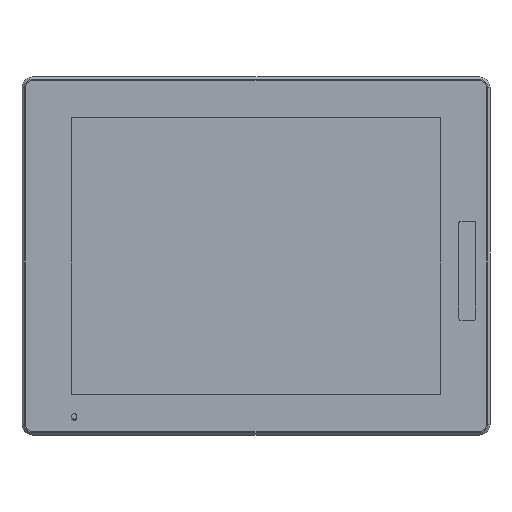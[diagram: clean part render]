
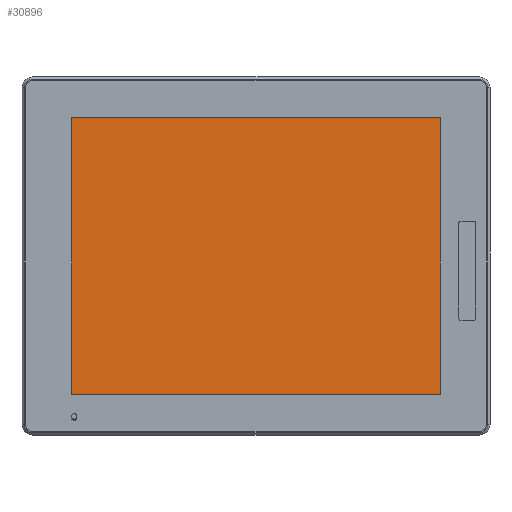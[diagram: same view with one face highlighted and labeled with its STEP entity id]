
A CAD part, top view. The second image highlights one B-rep face of the part: STEP entity #30896.
In plain terms, the highlighted planar face has unit normal (0, 0, 1).
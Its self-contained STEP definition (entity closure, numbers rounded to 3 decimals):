
#131 = ORIENTED_EDGE ( 'NONE', *, *, #35598, .T. ) ;
#143 = CARTESIAN_POINT ( 'NONE',  ( 34.4, 27.15, 63.748 ) ) ;
#304 = LINE ( 'NONE', #47327, #26725 ) ;
#2094 = DIRECTION ( 'NONE',  ( 1., 0., 0. ) ) ;
#2844 = DIRECTION ( 'NONE',  ( 0., 1., 0. ) ) ;
#4573 = DIRECTION ( 'NONE',  ( 1., 0., 0. ) ) ;
#4580 = FACE_OUTER_BOUND ( 'NONE', #31496, .T. ) ;
#5310 = DIRECTION ( 'NONE',  ( 0., 0., 1. ) ) ;
#6857 = ORIENTED_EDGE ( 'NONE', *, *, #77243, .T. ) ;
#7548 = DIRECTION ( 'NONE',  ( 0., -1., 0. ) ) ;
#9181 = ORIENTED_EDGE ( 'NONE', *, *, #12866, .T. ) ;
#11565 = CARTESIAN_POINT ( 'NONE',  ( 281.6, 213.85, 63.748 ) ) ;
#11796 = LINE ( 'NONE', #49772, #81953 ) ;
#12866 = EDGE_CURVE ( 'NONE', #52761, #36028, #47904, .T. ) ;
#12994 = DIRECTION ( 'NONE',  ( 0., 0., 1. ) ) ;
#13272 = CARTESIAN_POINT ( 'NONE',  ( 280.6, 213.85, 63.748 ) ) ;
#16033 = VERTEX_POINT ( 'NONE', #143 ) ;
#16381 = VECTOR ( 'NONE', #2844, 1000. ) ;
#17487 = CARTESIAN_POINT ( 'NONE',  ( 34.4, 213.85, 63.748 ) ) ;
#18119 = CARTESIAN_POINT ( 'NONE',  ( 157.5, 120.5, 63.748 ) ) ;
#19300 = CARTESIAN_POINT ( 'NONE',  ( 34.4, 28.15, 63.748 ) ) ;
#19583 = DIRECTION ( 'NONE',  ( 1., 0., 0. ) ) ;
#24681 = EDGE_CURVE ( 'NONE', #51545, #52761, #26215, .T. ) ;
#24822 = VERTEX_POINT ( 'NONE', #13272 ) ;
#24936 = LINE ( 'NONE', #11565, #40170 ) ;
#25208 = DIRECTION ( 'NONE',  ( 1., 0., 0. ) ) ;
#25443 = EDGE_CURVE ( 'NONE', #36028, #24822, #64760, .T. ) ;
#25651 = EDGE_CURVE ( 'NONE', #16033, #51545, #11796, .T. ) ;
#26215 = CIRCLE ( 'NONE', #73519, 1. ) ;
#26725 = VECTOR ( 'NONE', #7548, 1000. ) ;
#28758 = ORIENTED_EDGE ( 'NONE', *, *, #25443, .T. ) ;
#30896 = ADVANCED_FACE ( 'NONE', ( #4580 ), #43442, .T. ) ;
#31437 = DIRECTION ( 'NONE',  ( -1., 0., 0. ) ) ;
#31496 = EDGE_LOOP ( 'NONE', ( #67570, #76738, #9181, #28758, #69141, #131, #6857, #55951 ) ) ;
#34899 = AXIS2_PLACEMENT_3D ( 'NONE', #18119, #5310, #36900 ) ;
#35339 = EDGE_CURVE ( 'NONE', #24822, #45989, #24936, .T. ) ;
#35598 = EDGE_CURVE ( 'NONE', #45989, #40733, #67648, .T. ) ;
#36028 = VERTEX_POINT ( 'NONE', #70565 ) ;
#36900 = DIRECTION ( 'NONE',  ( 1., 0., 0. ) ) ;
#37829 = CARTESIAN_POINT ( 'NONE',  ( 33.4, 212.85, 63.748 ) ) ;
#40170 = VECTOR ( 'NONE', #31437, 1000. ) ;
#40462 = DIRECTION ( 'NONE',  ( 0., 0., 1. ) ) ;
#40733 = VERTEX_POINT ( 'NONE', #37829 ) ;
#40887 = CARTESIAN_POINT ( 'NONE',  ( 280.6, 27.15, 63.748 ) ) ;
#42346 = CARTESIAN_POINT ( 'NONE',  ( 33.4, 28.15, 63.748 ) ) ;
#43442 = PLANE ( 'NONE',  #34899 ) ;
#44726 = CARTESIAN_POINT ( 'NONE',  ( 280.6, 212.85, 63.748 ) ) ;
#45414 = CARTESIAN_POINT ( 'NONE',  ( 280.6, 28.15, 63.748 ) ) ;
#45989 = VERTEX_POINT ( 'NONE', #17487 ) ;
#47327 = CARTESIAN_POINT ( 'NONE',  ( 33.4, 213.85, 63.748 ) ) ;
#47904 = LINE ( 'NONE', #80725, #16381 ) ;
#49330 = AXIS2_PLACEMENT_3D ( 'NONE', #44726, #52102, #71773 ) ;
#49772 = CARTESIAN_POINT ( 'NONE',  ( 33.4, 27.15, 63.748 ) ) ;
#51454 = AXIS2_PLACEMENT_3D ( 'NONE', #66934, #40462, #2094 ) ;
#51545 = VERTEX_POINT ( 'NONE', #40887 ) ;
#51804 = EDGE_CURVE ( 'NONE', #71617, #16033, #77855, .T. ) ;
#52102 = DIRECTION ( 'NONE',  ( 0., 0., 1. ) ) ;
#52761 = VERTEX_POINT ( 'NONE', #66854 ) ;
#55951 = ORIENTED_EDGE ( 'NONE', *, *, #51804, .T. ) ;
#64760 = CIRCLE ( 'NONE', #49330, 1. ) ;
#64793 = DIRECTION ( 'NONE',  ( 0., 0., 1. ) ) ;
#66854 = CARTESIAN_POINT ( 'NONE',  ( 281.6, 28.15, 63.748 ) ) ;
#66934 = CARTESIAN_POINT ( 'NONE',  ( 34.4, 212.85, 63.748 ) ) ;
#67570 = ORIENTED_EDGE ( 'NONE', *, *, #25651, .T. ) ;
#67648 = CIRCLE ( 'NONE', #51454, 1. ) ;
#69141 = ORIENTED_EDGE ( 'NONE', *, *, #35339, .T. ) ;
#70565 = CARTESIAN_POINT ( 'NONE',  ( 281.6, 212.85, 63.748 ) ) ;
#71617 = VERTEX_POINT ( 'NONE', #42346 ) ;
#71773 = DIRECTION ( 'NONE',  ( 1., 0., 0. ) ) ;
#73508 = AXIS2_PLACEMENT_3D ( 'NONE', #19300, #64793, #19583 ) ;
#73519 = AXIS2_PLACEMENT_3D ( 'NONE', #45414, #12994, #25208 ) ;
#76738 = ORIENTED_EDGE ( 'NONE', *, *, #24681, .T. ) ;
#77243 = EDGE_CURVE ( 'NONE', #40733, #71617, #304, .T. ) ;
#77855 = CIRCLE ( 'NONE', #73508, 1. ) ;
#80725 = CARTESIAN_POINT ( 'NONE',  ( 281.6, 27.15, 63.748 ) ) ;
#81953 = VECTOR ( 'NONE', #4573, 1000. ) ;
